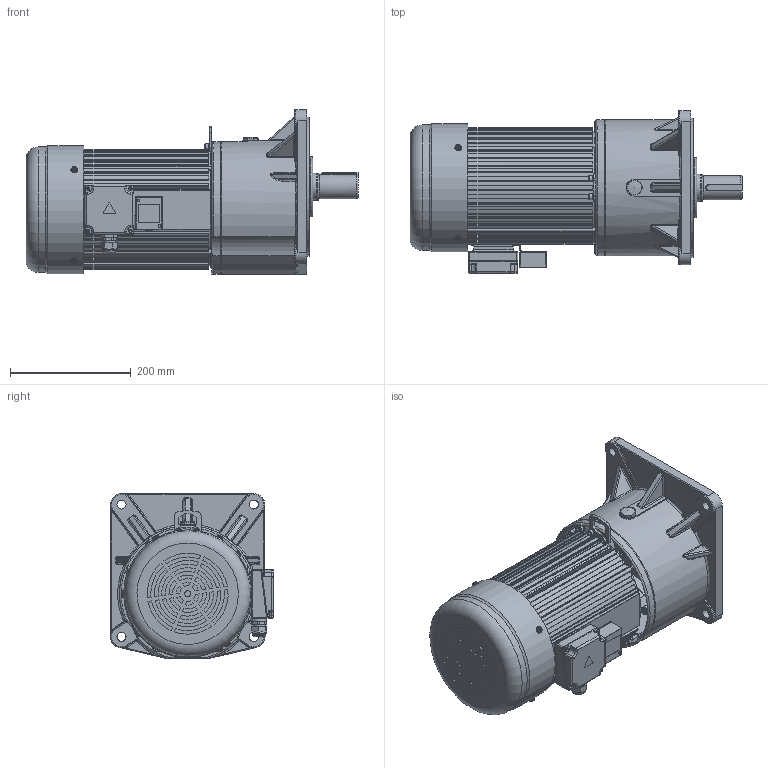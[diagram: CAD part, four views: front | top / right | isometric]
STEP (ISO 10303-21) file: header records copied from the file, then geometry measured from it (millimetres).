
FILE_DESCRIPTION(/* description */ (''),/* implementation_level */ '2;1');
FILE_NAME(/* name */ 'CV40-3700-3～200外形多速比带刹车.stp',/* time_stamp */ '2025-05-02T12:47:02+08:00',/* author */ (''),/* organization */ (''),/* preprocessor_version */ 'ST-DEVELOPER v18.102',/* originating_system */ 'SIEMENS PLM Software NX 2027',/* authorisation */ '');
FILE_SCHEMA (('AP203_CONFIGURATION_CONTROLLED_3D_DESIGN_OF_MECHANICAL_PARTS_AND_ASSEMBLIES_MIM_LF { 1 0 10303 403 2 1 2}'));
Length unit declared in the file: millimetre
Products named in the file (1): CV40-3700-3～200外形多速比带刹车_M2
291824579Bm4ow
Bounding box: 550 x 269.6 x 272.8 mm (x, y, z)
Volume: 16650958.8 mm3; surface area: 823545.9 mm2
Topology: 26 solids, 26 shells, 3842 faces, 9879 edges, 6313 vertices
Faces by surface type: plane 2086, cylinder 1086, cone 306, torus 146, bspline 97, extrusion 96, revolution 16, sphere 9
Full cylindrical faces by diameter (mm): 1 x1, 1.8 x1, 3 x1, 3.3 x4, 3.5 x1, 4 x1, 4.2 x8, 4.336 x4, 4.5 x2, 4.826 x4, 5 x12, 5.795 x2, 5.89 x4, 6.4 x4, 7 x2, 7.76 x6, 10 x3, 11 x4, 12.5 x1, 13 x7, 14 x6, 15 x4, 16 x3, 19.5 x1, 20 x3, 21 x1, 22.5 x1, 23.027 x1, 23.2 x1, 25 x2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
Entity records: 125680 total; most frequent: CARTESIAN_POINT 35052, ORIENTED_EDGE 19102, DIRECTION 17850, EDGE_CURVE 9551, AXIS2_PLACEMENT_3D 6266, VERTEX_POINT 6231, VECTOR 5302, LINE 5206
